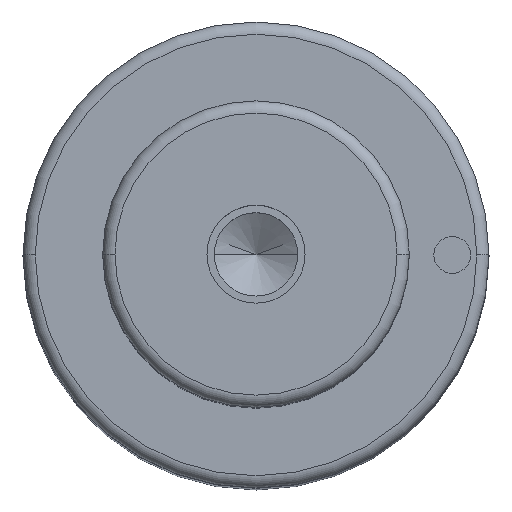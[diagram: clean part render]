
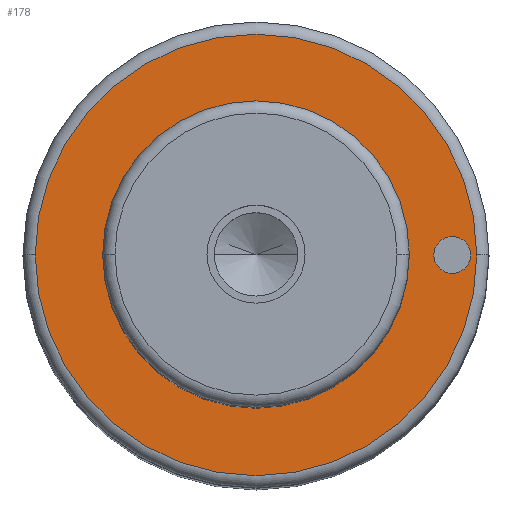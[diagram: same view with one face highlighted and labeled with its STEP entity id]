
A CAD part, top view. The second image highlights one B-rep face of the part: STEP entity #178.
In plain terms, the highlighted planar face has unit normal (0, 0, 1).
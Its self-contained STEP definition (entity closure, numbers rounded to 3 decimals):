
#105=PLANE('',#866);
#115=FACE_BOUND('',#283,.T.);
#116=FACE_BOUND('',#284,.T.);
#117=FACE_BOUND('',#285,.T.);
#178=ADVANCED_FACE('',(#115,#116,#117),#105,.T.);
#283=EDGE_LOOP('',(#473,#474));
#284=EDGE_LOOP('',(#475,#476));
#285=EDGE_LOOP('',(#477,#478));
#333=CIRCLE('',#834,12.5);
#334=CIRCLE('',#836,12.5);
#338=CIRCLE('',#841,18.);
#339=CIRCLE('',#843,18.);
#351=CIRCLE('',#864,1.5);
#352=CIRCLE('',#865,1.5);
#473=ORIENTED_EDGE('',*,*,#666,.F.);
#474=ORIENTED_EDGE('',*,*,#667,.F.);
#475=ORIENTED_EDGE('',*,*,#685,.F.);
#476=ORIENTED_EDGE('',*,*,#686,.F.);
#477=ORIENTED_EDGE('',*,*,#662,.T.);
#478=ORIENTED_EDGE('',*,*,#660,.T.);
#590=VERTEX_POINT('',#1233);
#591=VERTEX_POINT('',#1235);
#592=VERTEX_POINT('',#1241);
#595=VERTEX_POINT('',#1246);
#604=VERTEX_POINT('',#1285);
#605=VERTEX_POINT('',#1286);
#660=EDGE_CURVE('',#591,#590,#333,.T.);
#662=EDGE_CURVE('',#590,#591,#334,.T.);
#666=EDGE_CURVE('',#595,#592,#338,.T.);
#667=EDGE_CURVE('',#592,#595,#339,.T.);
#685=EDGE_CURVE('',#604,#605,#351,.T.);
#686=EDGE_CURVE('',#605,#604,#352,.T.);
#834=AXIS2_PLACEMENT_3D('',#1234,#985,#986);
#836=AXIS2_PLACEMENT_3D('',#1238,#990,#991);
#841=AXIS2_PLACEMENT_3D('',#1247,#1000,#1001);
#843=AXIS2_PLACEMENT_3D('',#1249,#1004,#1005);
#864=AXIS2_PLACEMENT_3D('',#1284,#1052,#1053);
#865=AXIS2_PLACEMENT_3D('',#1287,#1054,#1055);
#866=AXIS2_PLACEMENT_3D('',#1288,#1056,#1057);
#985=DIRECTION('',(0.,0.,-1.));
#986=DIRECTION('',(0.,1.,0.));
#990=DIRECTION('',(0.,0.,-1.));
#991=DIRECTION('',(0.,-1.,0.));
#1000=DIRECTION('',(0.,0.,-1.));
#1001=DIRECTION('',(0.,1.,0.));
#1004=DIRECTION('',(0.,0.,-1.));
#1005=DIRECTION('',(0.,-1.,0.));
#1052=DIRECTION('',(0.,0.,1.));
#1053=DIRECTION('',(0.,1.,0.));
#1054=DIRECTION('',(0.,0.,1.));
#1055=DIRECTION('',(0.,-1.,0.));
#1056=DIRECTION('',(0.,0.,1.));
#1057=DIRECTION('',(0.,-1.,0.));
#1233=CARTESIAN_POINT('',(-12.5,0.,95.));
#1234=CARTESIAN_POINT('',(0.,0.,95.));
#1235=CARTESIAN_POINT('',(12.5,0.,95.));
#1238=CARTESIAN_POINT('',(0.,0.,95.));
#1241=CARTESIAN_POINT('',(-18.,0.,95.));
#1246=CARTESIAN_POINT('',(18.,0.,95.));
#1247=CARTESIAN_POINT('',(0.,0.,95.));
#1249=CARTESIAN_POINT('',(0.,0.,95.));
#1284=CARTESIAN_POINT('',(16.,0.,95.));
#1285=CARTESIAN_POINT('',(14.5,0.,95.));
#1286=CARTESIAN_POINT('',(17.5,0.,95.));
#1287=CARTESIAN_POINT('',(16.,0.,95.));
#1288=CARTESIAN_POINT('',(0.,0.,95.));
